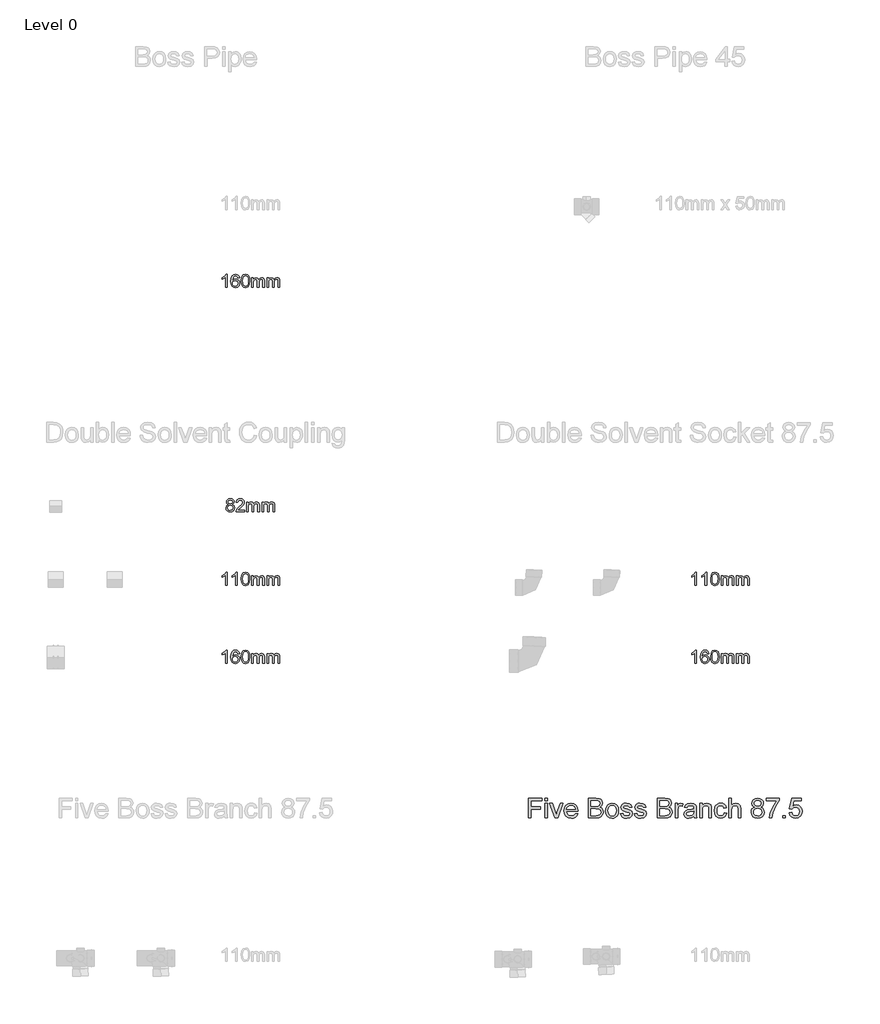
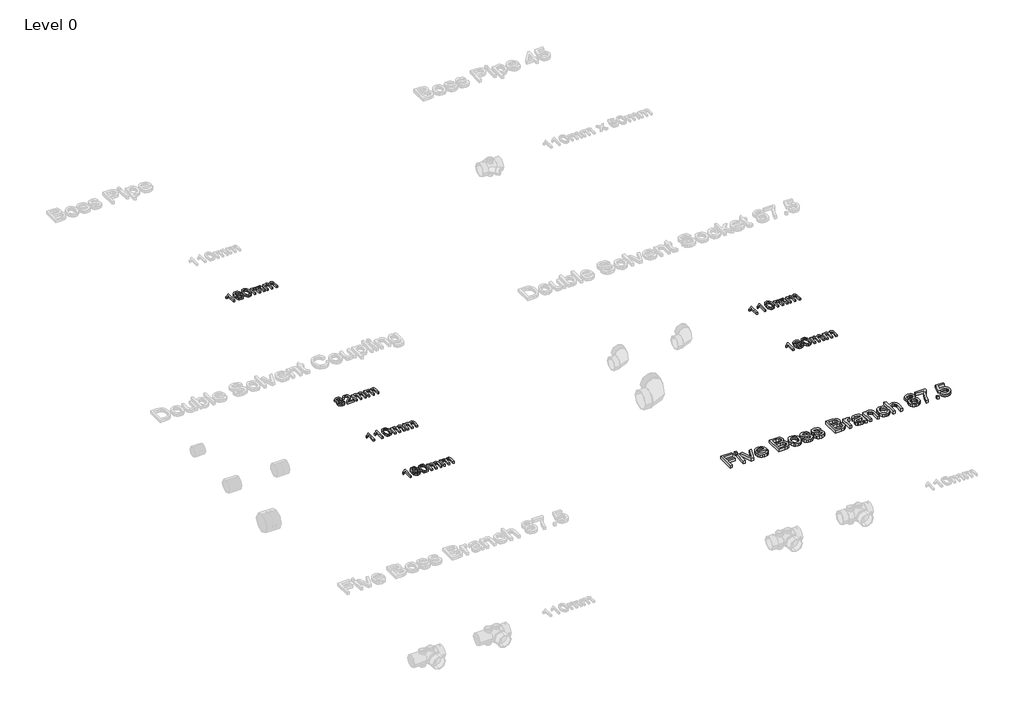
# One storey, part 27 of 28: 7 proxies.
"""IFC4 building model written with IfcOpenShell, lengths in millimetres."""

from ifc_helpers import new_model, si_unit, origin, origin_with_axes, place, context, project, spatial, polyline, outline, extrude, element, save

model = new_model("IFC4")

# Units and contexts
model_context = context("Model", 3, world=origin())
ifc_project = project(units=[si_unit("LENGTHUNIT", "METRE", prefix="MILLI")], contexts=[model_context])

# Site, building, storey
site = spatial("IfcSite", under=ifc_project)
building = spatial("IfcBuilding", under=site)
storey = spatial("IfcBuildingStorey", under=building, Name="Level 0", Elevation=0.0)

# Proxies
placement = place(None, origin())
element("IfcBuildingElementProxy", 1, Name="100mm Arial", ObjectType="100mm Arial", at=placement, inside=storey, context=model_context, shape_type="SweptSolid", body=[
    extrude(outline(polyline([(217.7418351, 6040.881174), (206.5278928, 6048.5254048), (202.8860659, 6060.4244433), (204.8692389, 6070.0458375), (210.8187582, 6077.9965587), (220.0675562, 6083.3330971), (231.9485659, 6085.1119433), (243.9016909, 6083.2910298), (253.2706812, 6077.8282894), (259.3283736, 6069.7513663), (261.3476043, 6060.0879048), (257.7538543, 6048.4893471), (246.852412, 6040.881174), (259.9413543, 6031.2297317), (264.4245274, 6015.304251), (262.2009697, 6003.537424), (255.5302966, 5993.8138663), (245.2298159, 5987.287424), (232.1168351, 5985.1119433), (219.0038543, 5987.2964385), (208.7033736, 5993.849924), (202.0327005, 6003.6666308), (199.8091428, 6015.6407894), (204.4726043, 6031.9388663), (217.7418351, 6040.881174)]), holes=[polyline([(215.1937582, 6060.0638663), (219.5567389, 6050.4004048), (232.2610659, 6046.6504048), (244.7129889, 6050.3763663), (249.039912, 6059.5109817), (244.5687582, 6068.9701163), (232.1168351, 6072.804251), (219.6288543, 6069.054251), (215.1937582, 6060.0638663)]), polyline([(212.1168351, 6016.0734817), (214.1721236, 6006.8066548), (221.4437582, 5999.8715587), (232.2129889, 5997.4196356), (246.8764505, 6002.5758856), (252.1168351, 6015.6888663), (246.7081812, 6029.054251), (240.2778928, 6033.0205971), (231.8043351, 6034.3427125), (217.321162, 6029.1263663), (212.1168351, 6016.0734817)])]), origin_with_axes(), (0.0, 0.0, 1.0), 15.0),
    extrude(outline(polyline([(338.2706812, 5998.9580971), (338.2706812, 5986.6504048), (273.6552966, 5986.6504048), (274.977412, 5995.1359817), (282.4533736, 6008.2008856), (297.8620274, 6022.4677125), (319.1120274, 6042.9725202), (324.4245274, 6056.9148279), (319.4125082, 6068.2008856), (306.3235659, 6072.804251), (292.6817389, 6068.3090587), (287.5014505, 6055.881174), (275.1937582, 6057.4196356), (278.1775322, 6069.3246837), (284.6288543, 6078.0205971), (294.2111861, 6083.3391067), (306.5879889, 6085.1119433), (319.0549361, 6083.1407894), (328.6192389, 6077.2273279), (334.7039745, 6068.3931933), (336.7322197, 6057.6600202), (334.5447197, 6045.9893471), (327.2730851, 6033.9220394), (309.6408736, 6017.0590587), (295.4822197, 6005.2201163), (289.9293351, 5998.9580971), (338.2706812, 5998.9580971)])), origin_with_axes(), (0.0, 0.0, 1.0), 15.0),
    extrude(outline(polyline([(353.6552966, 5986.6504048), (353.6552966, 6058.9580971), (365.9629889, 6058.9580971), (365.9629889, 6047.0590587), (374.4245274, 6056.8066548), (386.4677966, 6060.4965587), (398.7995274, 6056.7345394), (405.5783736, 6046.193674), (415.1817389, 6056.9208375), (427.3091428, 6060.4965587), (436.5609457, 6059.0091788), (443.4028928, 6054.5470394), (447.6306572, 6046.9899481), (449.039912, 6036.2177125), (449.039912, 5986.6504048), (436.7322197, 5986.6504048), (436.7322197, 6030.929251), (435.5903928, 6041.2056933), (431.4557774, 6046.2657894), (424.4245274, 6048.1888663), (412.321162, 6043.2609817), (407.5014505, 6027.4677125), (407.5014505, 5986.6504048), (395.1937582, 5986.6504048), (395.1937582, 6032.2994433), (392.3452005, 6044.2225202), (383.0062582, 6048.1888663), (373.8956812, 6045.5446356), (367.8379889, 6037.804251), (365.9629889, 6023.116751), (365.9629889, 5986.6504048), (353.6552966, 5986.6504048)])), origin_with_axes(), (0.0, 0.0, 1.0), 15.0),
    extrude(outline(polyline([(467.5014505, 5986.6504048), (467.5014505, 6058.9580971), (479.8091428, 6058.9580971), (479.8091428, 6047.0590587), (488.2706812, 6056.8066548), (500.3139505, 6060.4965587), (512.6456812, 6056.7345394), (519.4245274, 6046.193674), (529.0278928, 6056.9208375), (541.1552966, 6060.4965587), (550.4070995, 6059.0091788), (557.2490466, 6054.5470394), (561.4768111, 6046.9899481), (562.8860659, 6036.2177125), (562.8860659, 5986.6504048), (550.5783736, 5986.6504048), (550.5783736, 6030.929251), (549.4365466, 6041.2056933), (545.3019312, 6046.2657894), (538.2706812, 6048.1888663), (526.1673159, 6043.2609817), (521.3476043, 6027.4677125), (521.3476043, 5986.6504048), (509.039912, 5986.6504048), (509.039912, 6032.2994433), (506.1913543, 6044.2225202), (496.852412, 6048.1888663), (487.7418351, 6045.5446356), (481.6841428, 6037.804251), (479.8091428, 6023.116751), (479.8091428, 5986.6504048), (467.5014505, 5986.6504048)])), origin_with_axes(), (0.0, 0.0, 1.0), 15.0),
])
element("IfcBuildingElementProxy", 2, Name="100mm Arial", ObjectType="100mm Arial", at=placement, inside=storey, context=model_context, shape_type="SweptSolid", body=[
    extrude(outline(polyline([(208.2706812, 5437.7167304), (195.9629889, 5437.7167304), (195.9629889, 5514.4474996), (184.3043351, 5506.1422111), (171.3476043, 5499.9282688), (171.3476043, 5511.5628842), (189.3884697, 5523.0773073), (200.3379889, 5536.1782688), (208.2706812, 5536.1782688), (208.2706812, 5437.7167304)])), origin_with_axes(), (0.0, 0.0, 1.0), 15.0),
    extrude(outline(polyline([(283.6552966, 5437.7167304), (271.3476043, 5437.7167304), (271.3476043, 5514.4474996), (259.6889505, 5506.1422111), (246.7322197, 5499.9282688), (246.7322197, 5511.5628842), (264.7730851, 5523.0773073), (275.7226043, 5536.1782688), (283.6552966, 5536.1782688), (283.6552966, 5437.7167304)])), origin_with_axes(), (0.0, 0.0, 1.0), 15.0),
    extrude(outline(polyline([(312.8860659, 5486.1542304), (316.5038543, 5514.4835573), (327.2490466, 5530.8176919), (345.1937582, 5536.1782688), (359.5687582, 5533.0051919), (369.4966428, 5523.8585573), (375.2658736, 5509.2912496), (377.5014505, 5486.1542304), (373.9197197, 5457.9450958), (363.2105851, 5441.5749035), (345.1937582, 5436.1782688), (332.4052966, 5438.5220188), (322.6937582, 5445.5532688), (315.3379889, 5462.2059131), (312.8860659, 5486.1542304)]), holes=[polyline([(325.1937582, 5486.1782688), (326.6360659, 5466.8182929), (330.9629889, 5455.613365), (337.4052966, 5450.2678121), (345.1937582, 5448.4859611), (352.9822197, 5450.2738217), (359.4245274, 5455.6374035), (363.7514505, 5466.848341), (365.1937582, 5486.1782688), (363.7995274, 5505.1025477), (359.6168351, 5516.394615), (353.1865466, 5522.0015861), (345.0495274, 5523.8705765), (337.3452005, 5522.2239419), (331.1552966, 5517.2840381), (326.6841428, 5505.2888458), (325.1937582, 5486.1782688)])]), origin_with_axes(), (0.0, 0.0, 1.0), 15.0),
    extrude(outline(polyline([(391.3476043, 5437.7167304), (391.3476043, 5510.0244227), (403.6552966, 5510.0244227), (403.6552966, 5498.1253842), (412.1168351, 5507.8729804), (424.1601043, 5511.5628842), (436.4918351, 5507.800865), (443.2706812, 5497.2599996), (452.8740466, 5507.9871631), (465.0014505, 5511.5628842), (474.2532534, 5510.0755044), (481.0952005, 5505.613365), (485.3229649, 5498.0562736), (486.7322197, 5487.2840381), (486.7322197, 5437.7167304), (474.4245274, 5437.7167304), (474.4245274, 5481.9955765), (473.2827005, 5492.2720188), (469.1480851, 5497.332115), (462.1168351, 5499.2551919), (450.0134697, 5494.3273073), (445.1937582, 5478.5340381), (445.1937582, 5437.7167304), (432.8860659, 5437.7167304), (432.8860659, 5483.3657688), (430.0375082, 5495.2888458), (420.6985659, 5499.2551919), (411.5879889, 5496.6109611), (405.5302966, 5488.8705765), (403.6552966, 5474.1830765), (403.6552966, 5437.7167304), (391.3476043, 5437.7167304)])), origin_with_axes(), (0.0, 0.0, 1.0), 15.0),
    extrude(outline(polyline([(505.1937582, 5437.7167304), (505.1937582, 5510.0244227), (517.5014505, 5510.0244227), (517.5014505, 5498.1253842), (525.9629889, 5507.8729804), (538.0062582, 5511.5628842), (550.3379889, 5507.800865), (557.1168351, 5497.2599996), (566.7202005, 5507.9871631), (578.8476043, 5511.5628842), (588.0994072, 5510.0755044), (594.9413543, 5505.613365), (599.1691187, 5498.0562736), (600.5783736, 5487.2840381), (600.5783736, 5437.7167304), (588.2706812, 5437.7167304), (588.2706812, 5481.9955765), (587.1288543, 5492.2720188), (582.9942389, 5497.332115), (575.9629889, 5499.2551919), (563.8596236, 5494.3273073), (559.039912, 5478.5340381), (559.039912, 5437.7167304), (546.7322197, 5437.7167304), (546.7322197, 5483.3657688), (543.883662, 5495.2888458), (534.5447197, 5499.2551919), (525.4341428, 5496.6109611), (519.3764505, 5488.8705765), (517.5014505, 5474.1830765), (517.5014505, 5437.7167304), (505.1937582, 5437.7167304)])), origin_with_axes(), (0.0, 0.0, 1.0), 15.0),
])
element("IfcBuildingElementProxy", 3, Name="100mm Arial", ObjectType="100mm Arial", at=placement, inside=storey, context=model_context, shape_type="SweptSolid", body=[
    extrude(outline(polyline([(208.2706812, 4857.7167304), (195.9629889, 4857.7167304), (195.9629889, 4934.4474996), (184.3043351, 4926.1422111), (171.3476043, 4919.9282688), (171.3476043, 4931.5628842), (189.3884697, 4943.0773073), (200.3379889, 4956.1782688), (208.2706812, 4956.1782688), (208.2706812, 4857.7167304)])), origin_with_axes(), (0.0, 0.0, 1.0), 15.0),
    extrude(outline(polyline([(300.5783736, 4930.0244227), (288.2706812, 4928.4859611), (283.6072197, 4938.7503842), (271.2754889, 4943.8705765), (260.1697197, 4940.8898073), (251.7682774, 4929.6999035), (248.2706812, 4907.7648073), (259.1240466, 4917.5845188), (272.5735659, 4920.7936535), (283.9437582, 4918.6001438), (293.4870274, 4912.019615), (299.9593832, 4901.9655285), (302.1168351, 4889.3513458), (298.0543351, 4872.3681727), (286.8764505, 4860.3489419), (270.7466428, 4856.1782688), (256.7833014, 4858.9426919), (245.6625082, 4867.2359611), (238.3878687, 4881.8753842), (235.9629889, 4903.6782688), (238.6552966, 4928.19149), (246.7322197, 4944.9523073), (257.7598639, 4953.3717785), (272.0447197, 4956.1782688), (282.8439986, 4954.44149), (291.4918351, 4949.2311535), (297.5495274, 4940.9559131), (300.5783736, 4930.0244227)]), holes=[polyline([(248.2706812, 4889.5436535), (251.1192389, 4878.8825958), (258.6913543, 4871.1422111), (269.7851043, 4868.4859611), (277.9070995, 4869.8621631), (284.2923159, 4873.9907688), (288.4299361, 4880.4811535), (289.8091428, 4888.9426919), (288.4479649, 4897.0646871), (284.3644312, 4903.2575958), (269.2802966, 4908.4859611), (254.3884697, 4903.2575958), (249.8001284, 4897.2149275), (248.2706812, 4889.5436535)])]), origin_with_axes(), (0.0, 0.0, 1.0), 15.0),
    extrude(outline(polyline([(312.8860659, 4906.1542304), (316.5038543, 4934.4835573), (327.2490466, 4950.8176919), (345.1937582, 4956.1782688), (359.5687582, 4953.0051919), (369.4966428, 4943.8585573), (375.2658736, 4929.2912496), (377.5014505, 4906.1542304), (373.9197197, 4877.9450958), (363.2105851, 4861.5749035), (345.1937582, 4856.1782688), (332.4052966, 4858.5220188), (322.6937582, 4865.5532688), (315.3379889, 4882.2059131), (312.8860659, 4906.1542304)]), holes=[polyline([(325.1937582, 4906.1782688), (326.6360659, 4886.8182929), (330.9629889, 4875.613365), (337.4052966, 4870.2678121), (345.1937582, 4868.4859611), (352.9822197, 4870.2738217), (359.4245274, 4875.6374035), (363.7514505, 4886.848341), (365.1937582, 4906.1782688), (363.7995274, 4925.1025477), (359.6168351, 4936.394615), (353.1865466, 4942.0015861), (345.0495274, 4943.8705765), (337.3452005, 4942.2239419), (331.1552966, 4937.2840381), (326.6841428, 4925.2888458), (325.1937582, 4906.1782688)])]), origin_with_axes(), (0.0, 0.0, 1.0), 15.0),
    extrude(outline(polyline([(391.3476043, 4857.7167304), (391.3476043, 4930.0244227), (403.6552966, 4930.0244227), (403.6552966, 4918.1253842), (412.1168351, 4927.8729804), (424.1601043, 4931.5628842), (436.4918351, 4927.800865), (443.2706812, 4917.2599996), (452.8740466, 4927.9871631), (465.0014505, 4931.5628842), (474.2532534, 4930.0755044), (481.0952005, 4925.613365), (485.3229649, 4918.0562736), (486.7322197, 4907.2840381), (486.7322197, 4857.7167304), (474.4245274, 4857.7167304), (474.4245274, 4901.9955765), (473.2827005, 4912.2720188), (469.1480851, 4917.332115), (462.1168351, 4919.2551919), (450.0134697, 4914.3273073), (445.1937582, 4898.5340381), (445.1937582, 4857.7167304), (432.8860659, 4857.7167304), (432.8860659, 4903.3657688), (430.0375082, 4915.2888458), (420.6985659, 4919.2551919), (411.5879889, 4916.6109611), (405.5302966, 4908.8705765), (403.6552966, 4894.1830765), (403.6552966, 4857.7167304), (391.3476043, 4857.7167304)])), origin_with_axes(), (0.0, 0.0, 1.0), 15.0),
    extrude(outline(polyline([(505.1937582, 4857.7167304), (505.1937582, 4930.0244227), (517.5014505, 4930.0244227), (517.5014505, 4918.1253842), (525.9629889, 4927.8729804), (538.0062582, 4931.5628842), (550.3379889, 4927.800865), (557.1168351, 4917.2599996), (566.7202005, 4927.9871631), (578.8476043, 4931.5628842), (588.0994072, 4930.0755044), (594.9413543, 4925.613365), (599.1691187, 4918.0562736), (600.5783736, 4907.2840381), (600.5783736, 4857.7167304), (588.2706812, 4857.7167304), (588.2706812, 4901.9955765), (587.1288543, 4912.2720188), (582.9942389, 4917.332115), (575.9629889, 4919.2551919), (563.8596236, 4914.3273073), (559.039912, 4898.5340381), (559.039912, 4857.7167304), (546.7322197, 4857.7167304), (546.7322197, 4903.3657688), (543.883662, 4915.2888458), (534.5447197, 4919.2551919), (525.4341428, 4916.6109611), (519.3764505, 4908.8705765), (517.5014505, 4894.1830765), (517.5014505, 4857.7167304), (505.1937582, 4857.7167304)])), origin_with_axes(), (0.0, 0.0, 1.0), 15.0),
])
element("IfcBuildingElementProxy", 4, Name="100mm Arial", ObjectType="100mm Arial", at=placement, inside=storey, context=model_context, shape_type="SweptSolid", body=[
    extrude(outline(polyline([(3708.2706812, 5437.7167304), (3695.9629889, 5437.7167304), (3695.9629889, 5514.4474996), (3684.3043351, 5506.1422111), (3671.3476043, 5499.9282688), (3671.3476043, 5511.5628842), (3689.3884697, 5523.0773073), (3700.3379889, 5536.1782688), (3708.2706812, 5536.1782688), (3708.2706812, 5437.7167304)])), origin_with_axes(), (0.0, 0.0, 1.0), 15.0),
    extrude(outline(polyline([(3783.6552966, 5437.7167304), (3771.3476043, 5437.7167304), (3771.3476043, 5514.4474996), (3759.6889505, 5506.1422111), (3746.7322197, 5499.9282688), (3746.7322197, 5511.5628842), (3764.7730851, 5523.0773073), (3775.7226043, 5536.1782688), (3783.6552966, 5536.1782688), (3783.6552966, 5437.7167304)])), origin_with_axes(), (0.0, 0.0, 1.0), 15.0),
    extrude(outline(polyline([(3812.8860659, 5486.1542304), (3816.5038543, 5514.4835573), (3827.2490466, 5530.8176919), (3845.1937582, 5536.1782688), (3859.5687582, 5533.0051919), (3869.4966428, 5523.8585573), (3875.2658736, 5509.2912496), (3877.5014505, 5486.1542304), (3873.9197197, 5457.9450958), (3863.2105851, 5441.5749035), (3845.1937582, 5436.1782688), (3832.4052966, 5438.5220188), (3822.6937582, 5445.5532688), (3815.3379889, 5462.2059131), (3812.8860659, 5486.1542304)]), holes=[polyline([(3825.1937582, 5486.1782688), (3826.6360659, 5466.8182929), (3830.9629889, 5455.613365), (3837.4052966, 5450.2678121), (3845.1937582, 5448.4859611), (3852.9822197, 5450.2738217), (3859.4245274, 5455.6374035), (3863.7514505, 5466.848341), (3865.1937582, 5486.1782688), (3863.7995274, 5505.1025477), (3859.6168351, 5516.394615), (3853.1865466, 5522.0015861), (3845.0495274, 5523.8705765), (3837.3452005, 5522.2239419), (3831.1552966, 5517.2840381), (3826.6841428, 5505.2888458), (3825.1937582, 5486.1782688)])]), origin_with_axes(), (0.0, 0.0, 1.0), 15.0),
    extrude(outline(polyline([(3891.3476043, 5437.7167304), (3891.3476043, 5510.0244227), (3903.6552966, 5510.0244227), (3903.6552966, 5498.1253842), (3912.1168351, 5507.8729804), (3924.1601043, 5511.5628842), (3936.4918351, 5507.800865), (3943.2706812, 5497.2599996), (3952.8740466, 5507.9871631), (3965.0014505, 5511.5628842), (3974.2532534, 5510.0755044), (3981.0952005, 5505.613365), (3985.3229649, 5498.0562736), (3986.7322197, 5487.2840381), (3986.7322197, 5437.7167304), (3974.4245274, 5437.7167304), (3974.4245274, 5481.9955765), (3973.2827005, 5492.2720188), (3969.1480851, 5497.332115), (3962.1168351, 5499.2551919), (3950.0134697, 5494.3273073), (3945.1937582, 5478.5340381), (3945.1937582, 5437.7167304), (3932.8860659, 5437.7167304), (3932.8860659, 5483.3657688), (3930.0375082, 5495.2888458), (3920.6985659, 5499.2551919), (3911.5879889, 5496.6109611), (3905.5302966, 5488.8705765), (3903.6552966, 5474.1830765), (3903.6552966, 5437.7167304), (3891.3476043, 5437.7167304)])), origin_with_axes(), (0.0, 0.0, 1.0), 15.0),
    extrude(outline(polyline([(4005.1937582, 5437.7167304), (4005.1937582, 5510.0244227), (4017.5014505, 5510.0244227), (4017.5014505, 5498.1253842), (4025.9629889, 5507.8729804), (4038.0062582, 5511.5628842), (4050.3379889, 5507.800865), (4057.1168351, 5497.2599996), (4066.7202005, 5507.9871631), (4078.8476043, 5511.5628842), (4088.0994072, 5510.0755044), (4094.9413543, 5505.613365), (4099.1691187, 5498.0562736), (4100.5783736, 5487.2840381), (4100.5783736, 5437.7167304), (4088.2706812, 5437.7167304), (4088.2706812, 5481.9955765), (4087.1288543, 5492.2720188), (4082.9942389, 5497.332115), (4075.9629889, 5499.2551919), (4063.8596236, 5494.3273073), (4059.039912, 5478.5340381), (4059.039912, 5437.7167304), (4046.7322197, 5437.7167304), (4046.7322197, 5483.3657688), (4043.883662, 5495.2888458), (4034.5447197, 5499.2551919), (4025.4341428, 5496.6109611), (4019.3764505, 5488.8705765), (4017.5014505, 5474.1830765), (4017.5014505, 5437.7167304), (4005.1937582, 5437.7167304)])), origin_with_axes(), (0.0, 0.0, 1.0), 15.0),
])
element("IfcBuildingElementProxy", 5, Name="100mm Arial", ObjectType="100mm Arial", at=placement, inside=storey, context=model_context, shape_type="SweptSolid", body=[
    extrude(outline(polyline([(3708.2706812, 4857.7167304), (3695.9629889, 4857.7167304), (3695.9629889, 4934.4474996), (3684.3043351, 4926.1422111), (3671.3476043, 4919.9282688), (3671.3476043, 4931.5628842), (3689.3884697, 4943.0773073), (3700.3379889, 4956.1782688), (3708.2706812, 4956.1782688), (3708.2706812, 4857.7167304)])), origin_with_axes(), (0.0, 0.0, 1.0), 15.0),
    extrude(outline(polyline([(3800.5783736, 4930.0244227), (3788.2706812, 4928.4859611), (3783.6072197, 4938.7503842), (3771.2754889, 4943.8705765), (3760.1697197, 4940.8898073), (3751.7682774, 4929.6999035), (3748.2706812, 4907.7648073), (3759.1240466, 4917.5845188), (3772.5735659, 4920.7936535), (3783.9437582, 4918.6001438), (3793.4870274, 4912.019615), (3799.9593832, 4901.9655285), (3802.1168351, 4889.3513458), (3798.0543351, 4872.3681727), (3786.8764505, 4860.3489419), (3770.7466428, 4856.1782688), (3756.7833014, 4858.9426919), (3745.6625082, 4867.2359611), (3738.3878687, 4881.8753842), (3735.9629889, 4903.6782688), (3738.6552966, 4928.19149), (3746.7322197, 4944.9523073), (3757.7598639, 4953.3717785), (3772.0447197, 4956.1782688), (3782.8439986, 4954.44149), (3791.4918351, 4949.2311535), (3797.5495274, 4940.9559131), (3800.5783736, 4930.0244227)]), holes=[polyline([(3748.2706812, 4889.5436535), (3751.1192389, 4878.8825958), (3758.6913543, 4871.1422111), (3769.7851043, 4868.4859611), (3777.9070995, 4869.8621631), (3784.2923159, 4873.9907688), (3788.4299361, 4880.4811535), (3789.8091428, 4888.9426919), (3788.4479649, 4897.0646871), (3784.3644312, 4903.2575958), (3769.2802966, 4908.4859611), (3754.3884697, 4903.2575958), (3749.8001284, 4897.2149275), (3748.2706812, 4889.5436535)])]), origin_with_axes(), (0.0, 0.0, 1.0), 15.0),
    extrude(outline(polyline([(3812.8860659, 4906.1542304), (3816.5038543, 4934.4835573), (3827.2490466, 4950.8176919), (3845.1937582, 4956.1782688), (3859.5687582, 4953.0051919), (3869.4966428, 4943.8585573), (3875.2658736, 4929.2912496), (3877.5014505, 4906.1542304), (3873.9197197, 4877.9450958), (3863.2105851, 4861.5749035), (3845.1937582, 4856.1782688), (3832.4052966, 4858.5220188), (3822.6937582, 4865.5532688), (3815.3379889, 4882.2059131), (3812.8860659, 4906.1542304)]), holes=[polyline([(3825.1937582, 4906.1782688), (3826.6360659, 4886.8182929), (3830.9629889, 4875.613365), (3837.4052966, 4870.2678121), (3845.1937582, 4868.4859611), (3852.9822197, 4870.2738217), (3859.4245274, 4875.6374035), (3863.7514505, 4886.848341), (3865.1937582, 4906.1782688), (3863.7995274, 4925.1025477), (3859.6168351, 4936.394615), (3853.1865466, 4942.0015861), (3845.0495274, 4943.8705765), (3837.3452005, 4942.2239419), (3831.1552966, 4937.2840381), (3826.6841428, 4925.2888458), (3825.1937582, 4906.1782688)])]), origin_with_axes(), (0.0, 0.0, 1.0), 15.0),
    extrude(outline(polyline([(3891.3476043, 4857.7167304), (3891.3476043, 4930.0244227), (3903.6552966, 4930.0244227), (3903.6552966, 4918.1253842), (3912.1168351, 4927.8729804), (3924.1601043, 4931.5628842), (3936.4918351, 4927.800865), (3943.2706812, 4917.2599996), (3952.8740466, 4927.9871631), (3965.0014505, 4931.5628842), (3974.2532534, 4930.0755044), (3981.0952005, 4925.613365), (3985.3229649, 4918.0562736), (3986.7322197, 4907.2840381), (3986.7322197, 4857.7167304), (3974.4245274, 4857.7167304), (3974.4245274, 4901.9955765), (3973.2827005, 4912.2720188), (3969.1480851, 4917.332115), (3962.1168351, 4919.2551919), (3950.0134697, 4914.3273073), (3945.1937582, 4898.5340381), (3945.1937582, 4857.7167304), (3932.8860659, 4857.7167304), (3932.8860659, 4903.3657688), (3930.0375082, 4915.2888458), (3920.6985659, 4919.2551919), (3911.5879889, 4916.6109611), (3905.5302966, 4908.8705765), (3903.6552966, 4894.1830765), (3903.6552966, 4857.7167304), (3891.3476043, 4857.7167304)])), origin_with_axes(), (0.0, 0.0, 1.0), 15.0),
    extrude(outline(polyline([(4005.1937582, 4857.7167304), (4005.1937582, 4930.0244227), (4017.5014505, 4930.0244227), (4017.5014505, 4918.1253842), (4025.9629889, 4927.8729804), (4038.0062582, 4931.5628842), (4050.3379889, 4927.800865), (4057.1168351, 4917.2599996), (4066.7202005, 4927.9871631), (4078.8476043, 4931.5628842), (4088.0994072, 4930.0755044), (4094.9413543, 4925.613365), (4099.1691187, 4918.0562736), (4100.5783736, 4907.2840381), (4100.5783736, 4857.7167304), (4088.2706812, 4857.7167304), (4088.2706812, 4901.9955765), (4087.1288543, 4912.2720188), (4082.9942389, 4917.332115), (4075.9629889, 4919.2551919), (4063.8596236, 4914.3273073), (4059.039912, 4898.5340381), (4059.039912, 4857.7167304), (4046.7322197, 4857.7167304), (4046.7322197, 4903.3657688), (4043.883662, 4915.2888458), (4034.5447197, 4919.2551919), (4025.4341428, 4916.6109611), (4019.3764505, 4908.8705765), (4017.5014505, 4894.1830765), (4017.5014505, 4857.7167304), (4005.1937582, 4857.7167304)])), origin_with_axes(), (0.0, 0.0, 1.0), 15.0),
])
element("IfcBuildingElementProxy", 6, Name="100mm Arial", ObjectType="100mm Arial", at=placement, inside=storey, context=model_context, shape_type="SweptSolid", body=[
    extrude(outline(polyline([(208.2706812, 7657.7167304), (195.9629889, 7657.7167304), (195.9629889, 7734.4474996), (184.3043351, 7726.1422111), (171.3476043, 7719.9282688), (171.3476043, 7731.5628842), (189.3884697, 7743.0773073), (200.3379889, 7756.1782688), (208.2706812, 7756.1782688), (208.2706812, 7657.7167304)])), origin_with_axes(), (0.0, 0.0, 1.0), 15.0),
    extrude(outline(polyline([(300.5783736, 7730.0244227), (288.2706812, 7728.4859611), (283.6072197, 7738.7503842), (271.2754889, 7743.8705765), (260.1697197, 7740.8898073), (251.7682774, 7729.6999035), (248.2706812, 7707.7648073), (259.1240466, 7717.5845188), (272.5735659, 7720.7936535), (283.9437582, 7718.6001438), (293.4870274, 7712.019615), (299.9593832, 7701.9655285), (302.1168351, 7689.3513458), (298.0543351, 7672.3681727), (286.8764505, 7660.3489419), (270.7466428, 7656.1782688), (256.7833014, 7658.9426919), (245.6625082, 7667.2359611), (238.3878687, 7681.8753842), (235.9629889, 7703.6782688), (238.6552966, 7728.19149), (246.7322197, 7744.9523073), (257.7598639, 7753.3717785), (272.0447197, 7756.1782688), (282.8439986, 7754.44149), (291.4918351, 7749.2311535), (297.5495274, 7740.9559131), (300.5783736, 7730.0244227)]), holes=[polyline([(248.2706812, 7689.5436535), (251.1192389, 7678.8825958), (258.6913543, 7671.1422111), (269.7851043, 7668.4859611), (277.9070995, 7669.8621631), (284.2923159, 7673.9907688), (288.4299361, 7680.4811535), (289.8091428, 7688.9426919), (288.4479649, 7697.0646871), (284.3644312, 7703.2575958), (269.2802966, 7708.4859611), (254.3884697, 7703.2575958), (249.8001284, 7697.2149275), (248.2706812, 7689.5436535)])]), origin_with_axes(), (0.0, 0.0, 1.0), 15.0),
    extrude(outline(polyline([(312.8860659, 7706.1542304), (316.5038543, 7734.4835573), (327.2490466, 7750.8176919), (345.1937582, 7756.1782688), (359.5687582, 7753.0051919), (369.4966428, 7743.8585573), (375.2658736, 7729.2912496), (377.5014505, 7706.1542304), (373.9197197, 7677.9450958), (363.2105851, 7661.5749035), (345.1937582, 7656.1782688), (332.4052966, 7658.5220188), (322.6937582, 7665.5532688), (315.3379889, 7682.2059131), (312.8860659, 7706.1542304)]), holes=[polyline([(325.1937582, 7706.1782688), (326.6360659, 7686.8182929), (330.9629889, 7675.613365), (337.4052966, 7670.2678121), (345.1937582, 7668.4859611), (352.9822197, 7670.2738217), (359.4245274, 7675.6374035), (363.7514505, 7686.848341), (365.1937582, 7706.1782688), (363.7995274, 7725.1025477), (359.6168351, 7736.394615), (353.1865466, 7742.0015861), (345.0495274, 7743.8705765), (337.3452005, 7742.2239419), (331.1552966, 7737.2840381), (326.6841428, 7725.2888458), (325.1937582, 7706.1782688)])]), origin_with_axes(), (0.0, 0.0, 1.0), 15.0),
    extrude(outline(polyline([(391.3476043, 7657.7167304), (391.3476043, 7730.0244227), (403.6552966, 7730.0244227), (403.6552966, 7718.1253842), (412.1168351, 7727.8729804), (424.1601043, 7731.5628842), (436.4918351, 7727.800865), (443.2706812, 7717.2599996), (452.8740466, 7727.9871631), (465.0014505, 7731.5628842), (474.2532534, 7730.0755044), (481.0952005, 7725.613365), (485.3229649, 7718.0562736), (486.7322197, 7707.2840381), (486.7322197, 7657.7167304), (474.4245274, 7657.7167304), (474.4245274, 7701.9955765), (473.2827005, 7712.2720188), (469.1480851, 7717.332115), (462.1168351, 7719.2551919), (450.0134697, 7714.3273073), (445.1937582, 7698.5340381), (445.1937582, 7657.7167304), (432.8860659, 7657.7167304), (432.8860659, 7703.3657688), (430.0375082, 7715.2888458), (420.6985659, 7719.2551919), (411.5879889, 7716.6109611), (405.5302966, 7708.8705765), (403.6552966, 7694.1830765), (403.6552966, 7657.7167304), (391.3476043, 7657.7167304)])), origin_with_axes(), (0.0, 0.0, 1.0), 15.0),
    extrude(outline(polyline([(505.1937582, 7657.7167304), (505.1937582, 7730.0244227), (517.5014505, 7730.0244227), (517.5014505, 7718.1253842), (525.9629889, 7727.8729804), (538.0062582, 7731.5628842), (550.3379889, 7727.800865), (557.1168351, 7717.2599996), (566.7202005, 7727.9871631), (578.8476043, 7731.5628842), (588.0994072, 7730.0755044), (594.9413543, 7725.613365), (599.1691187, 7718.0562736), (600.5783736, 7707.2840381), (600.5783736, 7657.7167304), (588.2706812, 7657.7167304), (588.2706812, 7701.9955765), (587.1288543, 7712.2720188), (582.9942389, 7717.332115), (575.9629889, 7719.2551919), (563.8596236, 7714.3273073), (559.039912, 7698.5340381), (559.039912, 7657.7167304), (546.7322197, 7657.7167304), (546.7322197, 7703.3657688), (543.883662, 7715.2888458), (534.5447197, 7719.2551919), (525.4341428, 7716.6109611), (519.3764505, 7708.8705765), (517.5014505, 7694.1830765), (517.5014505, 7657.7167304), (505.1937582, 7657.7167304)])), origin_with_axes(), (0.0, 0.0, 1.0), 15.0),
])
element("IfcBuildingElementProxy", 7, Name="150mm Arial", ObjectType="150mm Arial", at=placement, inside=storey, context=model_context, shape_type="SweptSolid", body=[
    extrude(outline(polyline([(2455.5489334, 3705.2145219), (2455.5489334, 3852.9068296), (2554.7797027, 3852.9068296), (2554.7797027, 3834.4452911), (2474.0104719, 3834.4452911), (2474.0104719, 3790.5991373), (2543.2412411, 3790.5991373), (2543.2412411, 3772.1375988), (2474.0104719, 3772.1375988), (2474.0104719, 3705.2145219), (2455.5489334, 3705.2145219)])), origin_with_axes(), (0.0, 0.0, 1.0), 25.0),
    extrude(outline(polyline([(2577.8566257, 3834.4452911), (2577.8566257, 3852.9068296), (2596.3181642, 3852.9068296), (2596.3181642, 3834.4452911), (2577.8566257, 3834.4452911)])), origin_with_axes(), (0.0, 0.0, 1.0), 25.0),
    extrude(outline(polyline([(2577.8566257, 3705.2145219), (2577.8566257, 3813.6760604), (2596.3181642, 3813.6760604), (2596.3181642, 3705.2145219), (2577.8566257, 3705.2145219)])), origin_with_axes(), (0.0, 0.0, 1.0), 25.0),
    extrude(outline(polyline([(2650.6210488, 3705.2145219), (2612.4720103, 3813.6760604), (2632.0152796, 3813.6760604), (2655.1282603, 3748.7000988), (2662.087395, 3726.8491373), (2668.9022988, 3747.4741373), (2692.1595103, 3813.6760604), (2711.7027796, 3813.6760604), (2674.0224911, 3705.2145219), (2650.6210488, 3705.2145219)])), origin_with_axes(), (0.0, 0.0, 1.0), 25.0),
    extrude(outline(polyline([(2803.7941257, 3737.5222142), (2821.8950873, 3735.2145219), (2815.3731522, 3721.5756998), (2804.9660007, 3711.3803873), (2790.9080079, 3705.025219), (2773.4335488, 3702.9068296), (2751.7718902, 3706.5621782), (2735.1042219, 3717.5282238), (2724.4762171, 3735.0928272), (2720.9335488, 3758.5438488), (2724.5122748, 3782.7836325), (2735.2484527, 3800.9116373), (2751.6907603, 3812.2157238), (2772.3878757, 3815.9837527), (2792.4404599, 3812.2247383), (2808.4635969, 3800.947695), (2818.969907, 3782.8557479), (2822.4720103, 3758.6520219), (2822.3638373, 3753.6760604), (2739.3950873, 3753.6760604), (2742.5907003, 3739.8569498), (2750.0140777, 3729.697695), (2760.7277195, 3723.4506998), (2773.7941257, 3721.3683681), (2791.8950873, 3725.2265411), (2803.7941257, 3737.5222142)]), holes=[polyline([(2739.3950873, 3772.1375988), (2804.0104719, 3772.1375988), (2801.5134767, 3781.8912046), (2796.618645, 3788.8683681), (2785.8554238, 3795.3587527), (2772.3157603, 3797.5222142), (2759.8713493, 3795.7959522), (2749.5813853, 3790.6171661), (2742.4284406, 3782.5447503), (2739.3950873, 3772.1375988)])]), origin_with_axes(), (0.0, 0.0, 1.0), 25.0),
    extrude(outline(polyline([(2900.9335488, 3705.2145219), (2900.9335488, 3852.9068296), (2957.2917219, 3852.9068296), (2984.8938853, 3848.5618777), (2994.1697267, 3843.049558), (3001.1919623, 3835.2025027), (3007.087395, 3816.3082719), (3002.1294623, 3799.0546661), (2987.1474911, 3785.9837527), (2997.6087291, 3780.5210123), (3005.3385969, 3772.2097142), (3010.1117339, 3761.5997383), (3011.7027796, 3749.2409642), (3007.3578277, 3729.3912046), (2996.5946065, 3715.2565892), (2980.5309046, 3707.7565892), (2956.8590296, 3705.2145219), (2900.9335488, 3705.2145219)]), holes=[polyline([(2919.3950873, 3723.6760604), (2957.2556642, 3723.6760604), (2970.9575873, 3724.3972142), (2982.5501353, 3728.4176469), (2990.2304238, 3736.6207719), (2993.2412411, 3749.0606758), (2989.7075873, 3763.4116373), (2978.25927, 3771.9753392), (2955.4527796, 3774.4452911), (2919.3950873, 3774.4452911), (2919.3950873, 3723.6760604)]), polyline([(2919.3950873, 3792.9068296), (2953.1090296, 3792.9068296), (2972.7965296, 3794.4933681), (2984.6414815, 3801.3263008), (2988.6258565, 3813.3515411), (2984.9119142, 3825.3948104), (2974.274895, 3832.5162046), (2950.5489334, 3834.4452911), (2919.3950873, 3834.4452911), (2919.3950873, 3792.9068296)])]), origin_with_axes(), (0.0, 0.0, 1.0), 25.0),
    extrude(outline(polyline([(3030.164318, 3759.4452911), (3034.1577075, 3785.5961325), (3046.1378757, 3803.9765411), (3060.9395584, 3812.9819498), (3078.6619142, 3815.9837527), (3098.0564454, 3812.3284041), (3113.5477315, 3801.3623585), (3123.7024791, 3783.9510003), (3127.087395, 3760.9597142), (3125.5910007, 3742.3088729), (3121.101818, 3728.1111565), (3113.750556, 3717.4786445), (3103.6679238, 3709.5234161), (3091.6922628, 3704.5609762), (3078.6619142, 3702.9068296), (3059.0330079, 3706.5486565), (3043.5597507, 3717.4741373), (3033.5131762, 3735.2505796), (3030.164318, 3759.4452911)]), holes=[polyline([(3048.6258565, 3759.4813488), (3050.7622748, 3742.7731157), (3057.1715296, 3730.86957), (3066.8169623, 3723.7436686), (3078.6619142, 3721.3683681), (3090.4527796, 3723.7571902), (3100.0801834, 3730.9236565), (3106.4894382, 3742.9849546), (3108.6258565, 3760.0582719), (3106.4759166, 3776.2797262), (3100.0260969, 3788.0210123), (3090.3851714, 3795.1469137), (3078.6619142, 3797.5222142), (3066.8169623, 3795.1559282), (3057.1715296, 3788.05707), (3050.7622748, 3776.1805676), (3048.6258565, 3759.4813488)])]), origin_with_axes(), (0.0, 0.0, 1.0), 25.0),
    extrude(outline(polyline([(3140.9335488, 3737.5222142), (3159.3950873, 3739.8299065), (3162.3067459, 3731.9332719), (3167.9407603, 3726.1279835), (3187.5200873, 3721.3683681), (3206.3422027, 3725.7313488), (3212.4720103, 3735.9717335), (3206.306145, 3744.2650027), (3187.3037411, 3749.5294258), (3159.5032603, 3758.5618777), (3147.3698469, 3769.1087527), (3143.2412411, 3784.0005796), (3146.5585488, 3797.7565892), (3155.6090296, 3808.2674065), (3167.3458084, 3813.7301469), (3183.2292219, 3815.9837527), (3205.6931642, 3812.3599546), (3219.9720103, 3802.5522623), (3226.3181642, 3785.9837527), (3207.8566257, 3783.6760604), (3200.91552, 3793.8623585), (3184.6715296, 3797.5222142), (3167.0032603, 3794.0246181), (3161.7027796, 3785.8755796), (3163.9022988, 3780.5029835), (3170.789318, 3776.4284642), (3186.6907603, 3772.4981758), (3213.7881161, 3763.8082719), (3226.3722507, 3753.9645219), (3230.9335488, 3737.9188488), (3225.5789815, 3720.2505796), (3210.1282603, 3707.43207), (3187.2676834, 3702.9068296), (3168.6528998, 3705.08832), (3155.0681642, 3711.6327911), (3145.9996546, 3722.4681277), (3140.9335488, 3737.5222142)])), origin_with_axes(), (0.0, 0.0, 1.0), 25.0),
    extrude(outline(polyline([(3244.7797027, 3737.5222142), (3263.2412411, 3739.8299065), (3266.1528998, 3731.9332719), (3271.7869142, 3726.1279835), (3291.3662411, 3721.3683681), (3310.1883565, 3725.7313488), (3316.3181642, 3735.9717335), (3310.1522988, 3744.2650027), (3291.149895, 3749.5294258), (3263.3494142, 3758.5618777), (3251.2160007, 3769.1087527), (3247.087395, 3784.0005796), (3250.4047027, 3797.7565892), (3259.4551834, 3808.2674065), (3271.1919623, 3813.7301469), (3287.0753757, 3815.9837527), (3309.539318, 3812.3599546), (3323.8181642, 3802.5522623), (3330.164318, 3785.9837527), (3311.7027796, 3783.6760604), (3304.7616738, 3793.8623585), (3288.5176834, 3797.5222142), (3270.8494142, 3794.0246181), (3265.5489334, 3785.8755796), (3267.7484527, 3780.5029835), (3274.6354719, 3776.4284642), (3290.5369142, 3772.4981758), (3317.63427, 3763.8082719), (3330.2184046, 3753.9645219), (3334.7797027, 3737.9188488), (3329.4251353, 3720.2505796), (3313.9744142, 3707.43207), (3291.1138373, 3702.9068296), (3272.4990536, 3705.08832), (3258.914318, 3711.6327911), (3249.8458084, 3722.4681277), (3244.7797027, 3737.5222142)])), origin_with_axes(), (0.0, 0.0, 1.0), 25.0),
    extrude(outline(polyline([(3415.5489334, 3705.2145219), (3415.5489334, 3852.9068296), (3471.9071065, 3852.9068296), (3499.50927, 3848.5618777), (3508.7851113, 3843.049558), (3515.8073469, 3835.2025027), (3521.7027796, 3816.3082719), (3516.7448469, 3799.0546661), (3501.7628757, 3785.9837527), (3512.2241137, 3780.5210123), (3519.9539815, 3772.2097142), (3524.7271185, 3761.5997383), (3526.3181642, 3749.2409642), (3521.9732123, 3729.3912046), (3511.2099911, 3715.2565892), (3495.1462892, 3707.7565892), (3471.4744142, 3705.2145219), (3415.5489334, 3705.2145219)]), holes=[polyline([(3434.0104719, 3723.6760604), (3471.8710488, 3723.6760604), (3485.5729719, 3724.3972142), (3497.16552, 3728.4176469), (3504.8458084, 3736.6207719), (3507.8566257, 3749.0606758), (3504.3229719, 3763.4116373), (3492.8746546, 3771.9753392), (3470.0681642, 3774.4452911), (3434.0104719, 3774.4452911), (3434.0104719, 3723.6760604)]), polyline([(3434.0104719, 3792.9068296), (3467.7244142, 3792.9068296), (3487.4119142, 3794.4933681), (3499.2568661, 3801.3263008), (3503.2412411, 3813.3515411), (3499.5272988, 3825.3948104), (3488.8902796, 3832.5162046), (3465.164318, 3834.4452911), (3434.0104719, 3834.4452911), (3434.0104719, 3792.9068296)])]), origin_with_axes(), (0.0, 0.0, 1.0), 25.0),
    extrude(outline(polyline([(3549.3950873, 3705.2145219), (3549.3950873, 3813.6760604), (3565.5489334, 3813.6760604), (3565.5489334, 3797.6303873), (3577.0152796, 3812.4140411), (3588.5537411, 3815.9837527), (3607.087395, 3810.2866373), (3600.9215296, 3793.7361565), (3587.9407603, 3797.5222142), (3577.5020584, 3793.8803873), (3570.8494142, 3783.7842335), (3567.8566257, 3762.2217335), (3567.8566257, 3705.2145219), (3549.3950873, 3705.2145219)])), origin_with_axes(), (0.0, 0.0, 1.0), 25.0),
    extrude(outline(polyline([(3687.8566257, 3719.0606758), (3669.9539815, 3706.5486565), (3650.1763373, 3702.9068296), (3634.7481522, 3705.0973344), (3623.367443, 3711.6688488), (3616.3497147, 3721.6478152), (3614.0104719, 3734.0606758), (3617.5441257, 3748.6640411), (3626.8289815, 3759.2650027), (3639.7556642, 3765.322695), (3655.7292219, 3768.0991373), (3687.7484527, 3774.4452911), (3687.8566257, 3778.5558681), (3686.5855921, 3786.7950508), (3682.7724911, 3792.1856758), (3674.2448469, 3796.1880796), (3662.3638373, 3797.5222142), (3643.6859527, 3793.9705315), (3634.7797027, 3781.3683681), (3616.3181642, 3783.6760604), (3624.304943, 3801.7049065), (3640.3866738, 3812.2698104), (3664.743645, 3815.9837527), (3687.117443, 3812.7025027), (3699.7556642, 3804.46332), (3705.4167219, 3791.9332719), (3706.3181642, 3775.7794258), (3706.3181642, 3752.8106758), (3707.2556642, 3720.7373585), (3710.9335488, 3705.2145219), (3692.4720103, 3705.2145219), (3687.8566257, 3719.0606758)]), holes=[polyline([(3687.8566257, 3755.9837527), (3658.0729719, 3750.322695), (3642.1895584, 3747.3299065), (3634.9960488, 3742.4621181), (3632.4720103, 3735.3587527), (3637.9708084, 3725.3707719), (3654.1066257, 3721.3683681), (3672.7845103, 3725.7854354), (3684.8277796, 3736.4765411), (3687.7484527, 3750.7553873), (3687.8566257, 3755.9837527)])]), origin_with_axes(), (0.0, 0.0, 1.0), 25.0),
    extrude(outline(polyline([(3731.7027796, 3705.2145219), (3731.7027796, 3813.6760604), (3750.164318, 3813.6760604), (3750.164318, 3798.5318296), (3764.2809046, 3811.6207719), (3783.5537411, 3815.9837527), (3800.9876353, 3812.4681277), (3812.8866738, 3803.2373585), (3818.4215296, 3789.6616373), (3819.3950873, 3771.8130796), (3819.3950873, 3705.2145219), (3800.9335488, 3705.2145219), (3800.9335488, 3769.3250988), (3798.806145, 3785.6592335), (3791.2881161, 3794.2950508), (3778.6138373, 3797.5222142), (3767.8010368, 3795.7103152), (3758.5837892, 3790.2746181), (3752.2691858, 3779.7728152), (3750.164318, 3762.7625988), (3750.164318, 3705.2145219), (3731.7027796, 3705.2145219)])), origin_with_axes(), (0.0, 0.0, 1.0), 25.0),
    extrude(outline(polyline([(3914.0104719, 3744.4452911), (3932.4720103, 3742.1375988), (3927.3247748, 3725.7178272), (3917.6522988, 3713.3094738), (3904.3650392, 3705.5074907), (3888.3734527, 3702.9068296), (3868.735532, 3706.5351349), (3853.3794623, 3717.4200508), (3843.4681041, 3735.0838128), (3840.164318, 3759.0486565), (3845.8073469, 3789.7157238), (3852.9287411, 3801.2136205), (3863.0068661, 3809.4212527), (3875.063657, 3814.3431277), (3888.1210488, 3815.9837527), (3903.7205079, 3813.7301469), (3916.1919623, 3806.9693296), (3925.1387772, 3796.0618777), (3930.164318, 3781.3683681), (3911.7027796, 3779.0606758), (3903.1390777, 3792.8888008), (3888.2652796, 3797.5222142), (3876.3346906, 3795.2415652), (3866.8650392, 3788.3996181), (3860.6856522, 3776.6267815), (3858.6258565, 3759.5534642), (3860.6405801, 3742.2502791), (3866.6847507, 3730.4368777), (3875.9831281, 3723.6354955), (3887.7604719, 3721.3683681), (3897.3202676, 3722.7836325), (3905.1583084, 3727.0294258), (3910.859931, 3734.213921), (3914.0104719, 3744.4452911)])), origin_with_axes(), (0.0, 0.0, 1.0), 25.0),
    extrude(outline(polyline([(3948.6258565, 3705.2145219), (3948.6258565, 3852.9068296), (3967.087395, 3852.9068296), (3967.087395, 3798.603945), (3981.4834286, 3811.6388008), (3999.2147988, 3815.9837527), (4019.9479719, 3811.2421661), (4032.5321065, 3798.135195), (4036.3181642, 3773.8683681), (4036.3181642, 3705.2145219), (4017.8566257, 3705.2145219), (4017.8566257, 3771.9573104), (4016.3872748, 3783.5138008), (4011.9792219, 3791.4284642), (4004.8758565, 3795.9987767), (3995.320568, 3797.5222142), (3980.1943661, 3793.4116373), (3970.0982123, 3782.2698104), (3967.087395, 3762.8347142), (3967.087395, 3705.2145219), (3948.6258565, 3705.2145219)])), origin_with_axes(), (0.0, 0.0, 1.0), 25.0),
    extrude(outline(polyline([(4141.6787411, 3786.5606758), (4124.8578277, 3798.0270219), (4119.3950873, 3815.8755796), (4122.3698469, 3830.307671), (4131.2941257, 3842.2337527), (4145.1673228, 3850.2385604), (4162.9888373, 3852.9068296), (4180.9185248, 3850.1754594), (4194.9720103, 3841.9813488), (4204.0585488, 3829.8659642), (4207.087395, 3815.3707719), (4201.69677, 3797.9729354), (4185.3446065, 3786.5606758), (4196.7072868, 3780.705808), (4204.97802, 3772.0835123), (4210.0215897, 3761.1084522), (4211.7027796, 3748.1952911), (4208.367443, 3730.5450508), (4198.3614334, 3715.9597142), (4182.9107123, 3706.1700508), (4163.2412411, 3702.9068296), (4143.57177, 3706.1835724), (4128.1210488, 3716.0138008), (4118.1150392, 3730.7388609), (4114.7797027, 3748.7000988), (4116.5285007, 3762.1135604), (4121.774895, 3773.1472142), (4130.2484527, 3781.4224546), (4141.6787411, 3786.5606758)]), holes=[polyline([(4133.2412411, 3749.3491373), (4136.3241738, 3735.4488969), (4147.2316257, 3725.0462527), (4163.3854719, 3721.3683681), (4175.9515777, 3723.3019618), (4185.3806642, 3729.1027431), (4191.2760969, 3737.8872984), (4193.2412411, 3748.7722142), (4191.2129959, 3759.8419258), (4185.1282603, 3768.8202911), (4175.4828277, 3774.7698104), (4162.7724911, 3776.7529835), (4150.3821666, 3774.7968536), (4141.0477315, 3768.9284642), (4135.1928637, 3760.1213729), (4133.2412411, 3749.3491373)]), polyline([(4137.8566257, 3815.3347142), (4139.4927435, 3807.27582), (4144.4010969, 3800.8395219), (4152.4374551, 3796.6207719), (4163.4575873, 3795.2145219), (4174.2208084, 3796.6117575), (4182.1354719, 3800.8034642), (4187.0032603, 3807.0234161), (4188.6258565, 3814.5053873), (4186.9491738, 3822.2713128), (4181.9191257, 3828.6940892), (4173.8962892, 3833.0074907), (4163.2412411, 3834.4452911), (4152.5185849, 3833.0390411), (4144.50927, 3828.8202911), (4139.5197868, 3822.6363969), (4137.8566257, 3815.3347142)])]), origin_with_axes(), (0.0, 0.0, 1.0), 25.0),
    extrude(outline(polyline([(4227.8566257, 3832.1375988), (4227.8566257, 3850.5991373), (4324.7797027, 3850.5991373), (4324.7797027, 3835.6712527), (4297.2857123, 3795.9537046), (4276.2460488, 3745.3467335), (4269.3950873, 3705.2145219), (4250.9335488, 3705.2145219), (4258.2712892, 3746.8611565), (4278.4095103, 3793.9344738), (4306.3181642, 3832.1375988), (4227.8566257, 3832.1375988)])), origin_with_axes(), (0.0, 0.0, 1.0), 25.0),
    extrude(outline(polyline([(4350.164318, 3705.2145219), (4350.164318, 3723.6760604), (4368.6258565, 3723.6760604), (4368.6258565, 3705.2145219), (4350.164318, 3705.2145219)])), origin_with_axes(), (0.0, 0.0, 1.0), 25.0),
    extrude(outline(polyline([(4398.6258565, 3744.4452911), (4417.087395, 3746.7529835), (4420.476818, 3735.6697503), (4426.3902796, 3727.7325508), (4434.8007363, 3722.9594137), (4445.681145, 3721.3683681), (4458.914318, 3723.5814089), (4468.8301834, 3730.2205315), (4475.0230921, 3740.5195099), (4477.087395, 3753.7121181), (4475.1538012, 3766.1339931), (4469.35302, 3775.635195), (4459.6399791, 3781.665844), (4445.9696065, 3783.6760604), (4429.7616738, 3780.4669258), (4419.3950873, 3772.1375988), (4400.9335488, 3774.4452911), (4417.087395, 3850.5991373), (4488.6258565, 3850.5991373), (4488.6258565, 3832.1375988), (4432.0152796, 3832.1375988), (4424.118645, 3791.4645219), (4437.3067459, 3799.4693296), (4451.1258565, 3802.1375988), (4468.3749551, 3798.8293056), (4482.6943661, 3788.9044258), (4492.3352916, 3773.7782238), (4495.5489334, 3754.8659642), (4492.6553036, 3736.4044258), (4483.9744142, 3720.6111565), (4467.351818, 3707.3329113), (4445.6090296, 3702.9068296), (4427.4765176, 3705.7508801), (4413.0309046, 3714.2830315), (4403.1285608, 3727.5116974), (4398.6258565, 3744.4452911)])), origin_with_axes(), (0.0, 0.0, 1.0), 25.0),
])

save(model, "model.ifc")
